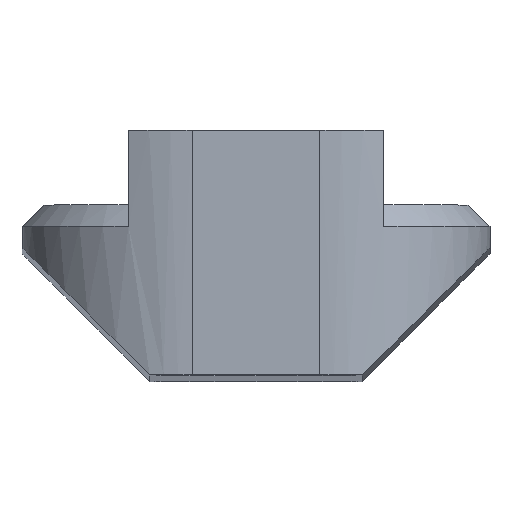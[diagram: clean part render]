
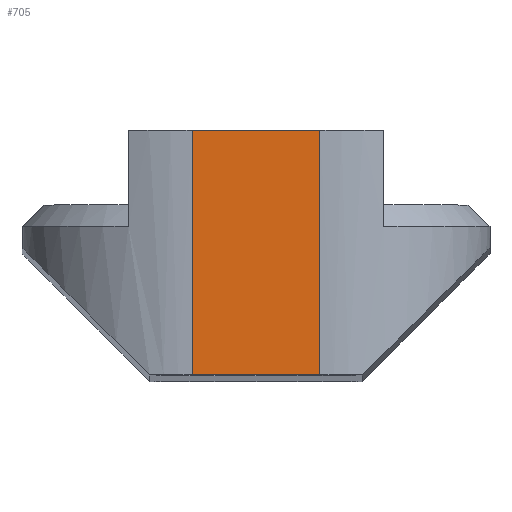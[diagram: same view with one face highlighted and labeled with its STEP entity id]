
A CAD part, top view. The second image highlights one B-rep face of the part: STEP entity #705.
In plain terms, the highlighted planar face has unit normal (0, 0, 1).
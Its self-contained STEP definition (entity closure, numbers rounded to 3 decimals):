
#51 = DIRECTION ( 'NONE',  ( -1., 0., 0. ) ) ;
#80 = CARTESIAN_POINT ( 'NONE',  ( -1.5, 2.875, 45. ) ) ;
#92 = PLANE ( 'NONE',  #605 ) ;
#112 = CARTESIAN_POINT ( 'NONE',  ( 1.5, -2.875, 45. ) ) ;
#114 = VERTEX_POINT ( 'NONE', #825 ) ;
#115 = EDGE_LOOP ( 'NONE', ( #791, #736, #445, #594 ) ) ;
#155 = CARTESIAN_POINT ( 'NONE',  ( 1.5, 0., 45. ) ) ;
#175 = EDGE_CURVE ( 'NONE', #345, #500, #715, .T. ) ;
#186 = FACE_OUTER_BOUND ( 'NONE', #115, .T. ) ;
#193 = CARTESIAN_POINT ( 'NONE',  ( -1.5, 0., 45. ) ) ;
#198 = DIRECTION ( 'NONE',  ( 0., -1., 0. ) ) ;
#263 = VERTEX_POINT ( 'NONE', #80 ) ;
#345 = VERTEX_POINT ( 'NONE', #112 ) ;
#386 = VECTOR ( 'NONE', #666, 1000. ) ;
#398 = CARTESIAN_POINT ( 'NONE',  ( 2.5, -2.875, 45. ) ) ;
#445 = ORIENTED_EDGE ( 'NONE', *, *, #611, .T. ) ;
#500 = VERTEX_POINT ( 'NONE', #606 ) ;
#527 = CARTESIAN_POINT ( 'NONE',  ( 0., 0., 45. ) ) ;
#549 = VECTOR ( 'NONE', #562, 1000. ) ;
#562 = DIRECTION ( 'NONE',  ( -1., 0., 0. ) ) ;
#594 = ORIENTED_EDGE ( 'NONE', *, *, #790, .T. ) ;
#595 = LINE ( 'NONE', #398, #386 ) ;
#605 = AXIS2_PLACEMENT_3D ( 'NONE', #527, #748, #51 ) ;
#606 = CARTESIAN_POINT ( 'NONE',  ( 1.5, 2.875, 45. ) ) ;
#611 = EDGE_CURVE ( 'NONE', #500, #263, #636, .T. ) ;
#636 = LINE ( 'NONE', #701, #549 ) ;
#643 = DIRECTION ( 'NONE',  ( 0., 1., 0. ) ) ;
#666 = DIRECTION ( 'NONE',  ( 1., 0., 0. ) ) ;
#701 = CARTESIAN_POINT ( 'NONE',  ( -3., 2.875, 45. ) ) ;
#705 = ADVANCED_FACE ( 'NONE', ( #186 ), #92, .F. ) ;
#715 = LINE ( 'NONE', #155, #886 ) ;
#736 = ORIENTED_EDGE ( 'NONE', *, *, #175, .T. ) ;
#748 = DIRECTION ( 'NONE',  ( 0., 0., -1. ) ) ;
#763 = EDGE_CURVE ( 'NONE', #114, #345, #595, .T. ) ;
#790 = EDGE_CURVE ( 'NONE', #263, #114, #877, .T. ) ;
#791 = ORIENTED_EDGE ( 'NONE', *, *, #763, .T. ) ;
#825 = CARTESIAN_POINT ( 'NONE',  ( -1.5, -2.875, 45. ) ) ;
#831 = VECTOR ( 'NONE', #198, 1000. ) ;
#877 = LINE ( 'NONE', #193, #831 ) ;
#886 = VECTOR ( 'NONE', #643, 1000. ) ;
